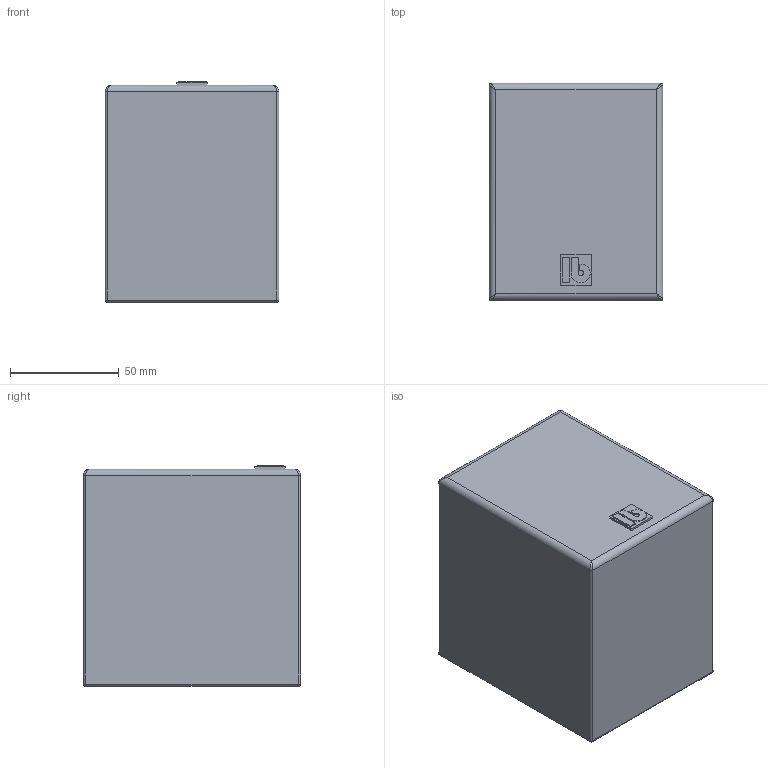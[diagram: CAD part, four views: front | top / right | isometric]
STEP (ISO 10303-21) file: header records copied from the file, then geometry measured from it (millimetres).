
FILE_DESCRIPTION(/* description */ (''),/* implementation_level */ '2;1');
FILE_NAME(/* name */ 'S2.stp',/* time_stamp */ '2024-05-17T13:16:43+02:00',/* author */ ('d.streicher'),/* organization */ (''),/* preprocessor_version */ 'ST-DEVELOPER v20',/* originating_system */ 'Autodesk Inventor 2025',/* authorisation */ '');
FILE_SCHEMA (('AUTOMOTIVE_DESIGN { 1 0 10303 214 3 1 1 }'));
Length unit declared in the file: millimetre
Products named in the file (1): S2P schwarz
Bounding box: 80 x 100 x 101.5 mm (x, y, z)
Volume: 796718.9 mm3; surface area: 52249.2 mm2
Topology: 1 solids, 1 shells, 54 faces, 118 edges, 68 vertices
Faces by surface type: plane 28, cylinder 18, sphere 4, bspline 4
Full cylindrical faces by diameter (mm): 6 x2
Entity records: 1643 total; most frequent: CARTESIAN_POINT 353, DIRECTION 252, ORIENTED_EDGE 228, EDGE_CURVE 114, AXIS2_PLACEMENT_3D 87, LINE 78, VECTOR 78, VERTEX_POINT 68
